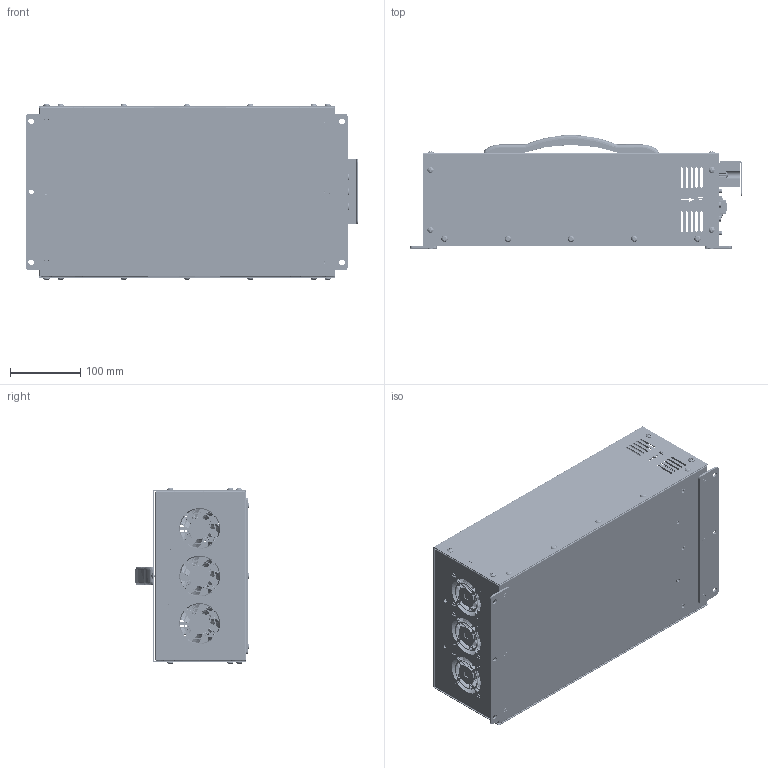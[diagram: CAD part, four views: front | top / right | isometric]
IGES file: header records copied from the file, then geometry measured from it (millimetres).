
Global section: file name: VX3COM_OLED_21pitch단자대_HANDLE1_2026.06.18_단순화_1,22HAutodesk; native system: Inventor 2026; preprocessor: unknown; author: Administrator; date: 20260618.143049; units: millimetre
Bounding box: 471.11 x 160.81 x 250.84 mm (x, y, z)
Volume: 821120.8 mm3; surface area: 956928.9 mm2
Topology: 15 solids, 15 shells, 8900 faces, 24379 edges, 16075 vertices
Faces by surface type: bspline 8900
